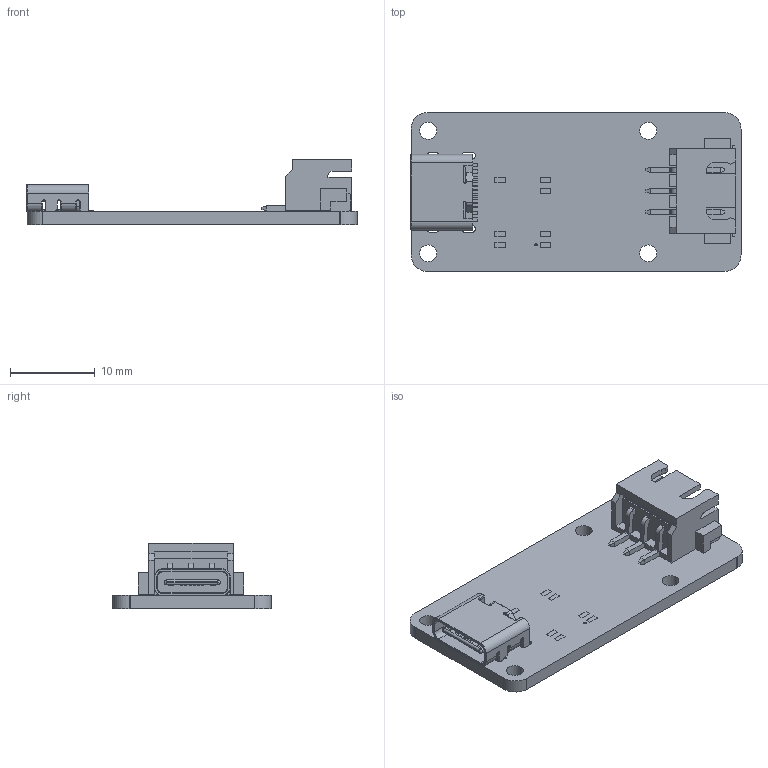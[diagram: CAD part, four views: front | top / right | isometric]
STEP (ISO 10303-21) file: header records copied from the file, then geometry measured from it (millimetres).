
FILE_DESCRIPTION (( 'STEP AP203' ), '1' );
FILE_NAME ('TTL湍路燭蛌諉啣-DW.STEP', '2026-09-24T10:04:05', ( 'Admin-' ), ( 'Microsoft' ), 'SwSTEP 2.0', 'SolidWorks 2024', '' );
FILE_SCHEMA (( 'CONFIG_CONTROL_DESIGN' ));
Length unit declared in the file: millimetre
Products named in the file (1): TTL带隔离转接板-DW
Bounding box: 38.99 x 18.78 x 7.71 mm (x, y, z)
Volume: 1451.7 mm3; surface area: 2751.2 mm2
Topology: 11 solids, 11 shells, 862 faces, 2149 edges, 1341 vertices
Faces by surface type: plane 501, cylinder 229, torus 114, bspline 18
Entity records: 26171 total; most frequent: CARTESIAN_POINT 5219, DIRECTION 4400, ORIENTED_EDGE 4298, EDGE_CURVE 2149, LINE 1516, VECTOR 1516, AXIS2_PLACEMENT_3D 1442, VERTEX_POINT 1341
